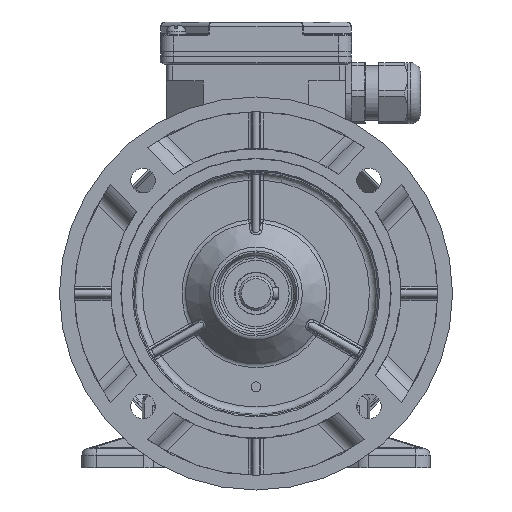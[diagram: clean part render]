
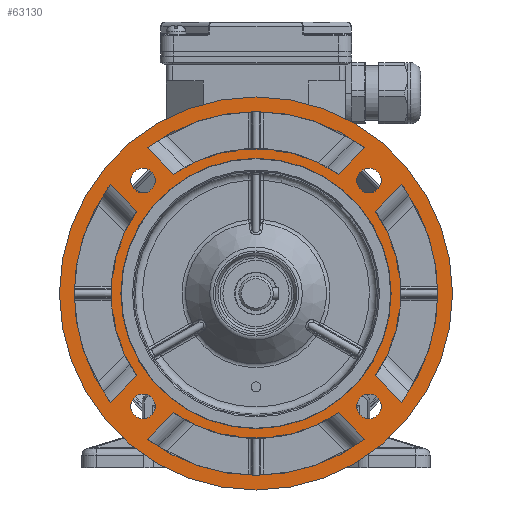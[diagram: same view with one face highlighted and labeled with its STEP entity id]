
A CAD part, front view. The second image highlights one B-rep face of the part: STEP entity #63130.
In plain terms, the highlighted planar face has unit normal (0, -1, 0).
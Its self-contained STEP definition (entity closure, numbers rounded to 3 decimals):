
#2220=LINE('',#95087,#5161);
#2221=LINE('',#95101,#5162);
#2222=LINE('',#95110,#5163);
#2223=LINE('',#95129,#5164);
#2224=LINE('',#95141,#5165);
#2225=LINE('',#95155,#5166);
#2226=LINE('',#95181,#5167);
#2227=LINE('',#95190,#5168);
#5161=VECTOR('',#75701,1000.);
#5162=VECTOR('',#75708,1000.);
#5163=VECTOR('',#75715,1000.);
#5164=VECTOR('',#75722,1000.);
#5165=VECTOR('',#75733,1000.);
#5166=VECTOR('',#75740,1000.);
#5167=VECTOR('',#75751,1000.);
#5168=VECTOR('',#75758,1000.);
#17358=ORIENTED_EDGE('',*,*,#26934,.F.);
#17359=ORIENTED_EDGE('',*,*,#26935,.F.);
#17360=ORIENTED_EDGE('',*,*,#26936,.F.);
#17361=ORIENTED_EDGE('',*,*,#26937,.F.);
#17362=ORIENTED_EDGE('',*,*,#26853,.F.);
#17363=ORIENTED_EDGE('',*,*,#26851,.F.);
#17364=ORIENTED_EDGE('',*,*,#26850,.T.);
#17365=ORIENTED_EDGE('',*,*,#26847,.T.);
#17366=ORIENTED_EDGE('',*,*,#26845,.F.);
#17367=ORIENTED_EDGE('',*,*,#26843,.T.);
#17368=ORIENTED_EDGE('',*,*,#26841,.T.);
#17369=ORIENTED_EDGE('',*,*,#26839,.F.);
#17370=ORIENTED_EDGE('',*,*,#26837,.F.);
#17371=ORIENTED_EDGE('',*,*,#26836,.F.);
#17372=ORIENTED_EDGE('',*,*,#26835,.T.);
#17373=ORIENTED_EDGE('',*,*,#26832,.T.);
#17374=ORIENTED_EDGE('',*,*,#26830,.F.);
#17375=ORIENTED_EDGE('',*,*,#26828,.F.);
#17376=ORIENTED_EDGE('',*,*,#26827,.T.);
#17377=ORIENTED_EDGE('',*,*,#26824,.T.);
#17378=ORIENTED_EDGE('',*,*,#26823,.F.);
#17379=ORIENTED_EDGE('',*,*,#26933,.T.);
#26823=EDGE_CURVE('',#32245,#32244,#2220,.T.);
#26824=EDGE_CURVE('',#32246,#32244,#35270,.T.);
#26827=EDGE_CURVE('',#32247,#32246,#2221,.T.);
#26828=EDGE_CURVE('',#32247,#32245,#35271,.T.);
#26830=EDGE_CURVE('',#32248,#32249,#2222,.T.);
#26832=EDGE_CURVE('',#32250,#32249,#35272,.T.);
#26835=EDGE_CURVE('',#32251,#32250,#2223,.T.);
#26836=EDGE_CURVE('',#32251,#32248,#35273,.T.);
#26837=EDGE_CURVE('',#32252,#32252,#35274,.T.);
#26839=EDGE_CURVE('',#32253,#32254,#2224,.T.);
#26841=EDGE_CURVE('',#32255,#32254,#35275,.T.);
#26843=EDGE_CURVE('',#32256,#32255,#2225,.T.);
#26845=EDGE_CURVE('',#32256,#32253,#35276,.T.);
#26847=EDGE_CURVE('',#32258,#32257,#35277,.T.);
#26850=EDGE_CURVE('',#32259,#32258,#2226,.T.);
#26851=EDGE_CURVE('',#32259,#32260,#35278,.T.);
#26853=EDGE_CURVE('',#32260,#32257,#2227,.T.);
#26933=EDGE_CURVE('',#32316,#32316,#35294,.T.);
#26934=EDGE_CURVE('',#32317,#32317,#35295,.T.);
#26935=EDGE_CURVE('',#32318,#32318,#35296,.T.);
#26936=EDGE_CURVE('',#32319,#32319,#35297,.T.);
#26937=EDGE_CURVE('',#32320,#32320,#35298,.T.);
#32244=VERTEX_POINT('',#95081);
#32245=VERTEX_POINT('',#95086);
#32246=VERTEX_POINT('',#95090);
#32247=VERTEX_POINT('',#95100);
#32248=VERTEX_POINT('',#95109);
#32249=VERTEX_POINT('',#95111);
#32250=VERTEX_POINT('',#95118);
#32251=VERTEX_POINT('',#95128);
#32252=VERTEX_POINT('',#95134);
#32253=VERTEX_POINT('',#95140);
#32254=VERTEX_POINT('',#95142);
#32255=VERTEX_POINT('',#95149);
#32256=VERTEX_POINT('',#95156);
#32257=VERTEX_POINT('',#95168);
#32258=VERTEX_POINT('',#95170);
#32259=VERTEX_POINT('',#95180);
#32260=VERTEX_POINT('',#95184);
#32316=VERTEX_POINT('',#95477);
#32317=VERTEX_POINT('',#95480);
#32318=VERTEX_POINT('',#95482);
#32319=VERTEX_POINT('',#95484);
#32320=VERTEX_POINT('',#95486);
#35270=CIRCLE('',#66844,59.);
#35271=CIRCLE('',#66847,74.);
#35272=CIRCLE('',#66850,59.);
#35273=CIRCLE('',#66853,74.);
#35274=CIRCLE('',#66855,55.);
#35275=CIRCLE('',#66858,59.);
#35276=CIRCLE('',#66861,74.);
#35277=CIRCLE('',#66863,59.);
#35278=CIRCLE('',#66866,74.);
#35294=CIRCLE('',#66928,80.);
#35295=CIRCLE('',#66930,5.);
#35296=CIRCLE('',#66931,5.);
#35297=CIRCLE('',#66932,5.);
#35298=CIRCLE('',#66933,5.);
#37789=EDGE_LOOP('',(#17358));
#37790=EDGE_LOOP('',(#17359));
#37791=EDGE_LOOP('',(#17360));
#37792=EDGE_LOOP('',(#17361));
#37793=EDGE_LOOP('',(#17362,#17363,#17364,#17365));
#37794=EDGE_LOOP('',(#17366,#17367,#17368,#17369));
#37795=EDGE_LOOP('',(#17370));
#37796=EDGE_LOOP('',(#17371,#17372,#17373,#17374));
#37797=EDGE_LOOP('',(#17375,#17376,#17377,#17378));
#37798=EDGE_LOOP('',(#17379));
#40859=FACE_BOUND('',#37789,.T.);
#40860=FACE_BOUND('',#37790,.T.);
#40861=FACE_BOUND('',#37791,.T.);
#40862=FACE_BOUND('',#37792,.T.);
#40863=FACE_BOUND('',#37793,.T.);
#40864=FACE_BOUND('',#37794,.T.);
#40865=FACE_BOUND('',#37795,.T.);
#40866=FACE_BOUND('',#37796,.T.);
#40867=FACE_BOUND('',#37797,.T.);
#40868=FACE_BOUND('',#37798,.T.);
#42744=PLANE('',#66929);
#63130=ADVANCED_FACE('',(#40859,#40860,#40861,#40862,#40863,#40864,#40865,
#40866,#40867,#40868),#42744,.F.);
#66844=AXIS2_PLACEMENT_3D('',#95089,#75704,#75705);
#66847=AXIS2_PLACEMENT_3D('',#95103,#75711,#75712);
#66850=AXIS2_PLACEMENT_3D('',#95117,#75718,#75719);
#66853=AXIS2_PLACEMENT_3D('',#95131,#75725,#75726);
#66855=AXIS2_PLACEMENT_3D('',#95133,#75729,#75730);
#66858=AXIS2_PLACEMENT_3D('',#95148,#75736,#75737);
#66861=AXIS2_PLACEMENT_3D('',#95162,#75743,#75744);
#66863=AXIS2_PLACEMENT_3D('',#95169,#75747,#75748);
#66866=AXIS2_PLACEMENT_3D('',#95183,#75754,#75755);
#66928=AXIS2_PLACEMENT_3D('',#95476,#75905,#75906);
#66929=AXIS2_PLACEMENT_3D('',#95478,#75907,#75908);
#66930=AXIS2_PLACEMENT_3D('',#95479,#75909,#75910);
#66931=AXIS2_PLACEMENT_3D('',#95481,#75911,#75912);
#66932=AXIS2_PLACEMENT_3D('',#95483,#75913,#75914);
#66933=AXIS2_PLACEMENT_3D('',#95485,#75915,#75916);
#75701=DIRECTION('',(-0.707,0.,-0.707));
#75704=DIRECTION('',(0.,-1.,0.));
#75705=DIRECTION('',(0.,0.,-1.));
#75708=DIRECTION('',(-0.707,0.,0.707));
#75711=DIRECTION('',(0.,-1.,0.));
#75712=DIRECTION('',(0.,0.,-1.));
#75715=DIRECTION('',(-0.707,0.,0.707));
#75718=DIRECTION('',(0.,-1.,0.));
#75719=DIRECTION('',(0.,0.,-1.));
#75722=DIRECTION('',(0.707,0.,0.707));
#75725=DIRECTION('',(0.,-1.,0.));
#75726=DIRECTION('',(0.,0.,-1.));
#75729=DIRECTION('',(0.,-1.,0.));
#75730=DIRECTION('',(0.,0.,-1.));
#75733=DIRECTION('',(0.707,0.,0.707));
#75736=DIRECTION('',(0.,-1.,0.));
#75737=DIRECTION('',(0.,0.,-1.));
#75740=DIRECTION('',(0.707,0.,-0.707));
#75743=DIRECTION('',(0.,-1.,0.));
#75744=DIRECTION('',(0.,0.,-1.));
#75747=DIRECTION('',(0.,-1.,0.));
#75748=DIRECTION('',(0.,0.,-1.));
#75751=DIRECTION('',(-0.707,0.,-0.707));
#75754=DIRECTION('',(0.,-1.,0.));
#75755=DIRECTION('',(0.,0.,-1.));
#75758=DIRECTION('',(0.707,0.,-0.707));
#75905=DIRECTION('',(0.,-1.,0.));
#75906=DIRECTION('',(0.,0.,-1.));
#75907=DIRECTION('',(0.,1.,0.));
#75908=DIRECTION('',(0.,0.,1.));
#75909=DIRECTION('',(0.,-1.,0.));
#75910=DIRECTION('',(1.,0.,0.));
#75911=DIRECTION('',(0.,-1.,0.));
#75912=DIRECTION('',(1.,0.,0.));
#75913=DIRECTION('',(0.,-1.,0.));
#75914=DIRECTION('',(1.,0.,0.));
#75915=DIRECTION('',(0.,-1.,0.));
#75916=DIRECTION('',(1.,0.,0.));
#95081=CARTESIAN_POINT('',(48.549,-90.,33.526));
#95086=CARTESIAN_POINT('',(59.295,-90.,44.273));
#95087=CARTESIAN_POINT('',(59.837,-90.,44.815));
#95089=CARTESIAN_POINT('',(0.,-90.,0.));
#95090=CARTESIAN_POINT('',(48.549,-90.,-33.526));
#95100=CARTESIAN_POINT('',(59.295,-90.,-44.273));
#95101=CARTESIAN_POINT('',(59.837,-90.,-44.815));
#95103=CARTESIAN_POINT('',(0.,-90.,0.));
#95109=CARTESIAN_POINT('',(44.273,-90.,-59.295));
#95110=CARTESIAN_POINT('',(44.815,-90.,-59.837));
#95111=CARTESIAN_POINT('',(33.526,-90.,-48.549));
#95117=CARTESIAN_POINT('',(0.,-90.,0.));
#95118=CARTESIAN_POINT('',(-33.526,-90.,-48.549));
#95128=CARTESIAN_POINT('',(-44.273,-90.,-59.295));
#95129=CARTESIAN_POINT('',(-44.815,-90.,-59.837));
#95131=CARTESIAN_POINT('',(0.,-90.,0.));
#95133=CARTESIAN_POINT('',(0.,-90.,0.));
#95134=CARTESIAN_POINT('',(0.,-90.,-55.));
#95140=CARTESIAN_POINT('',(-59.295,-90.,-44.273));
#95141=CARTESIAN_POINT('',(-59.837,-90.,-44.815));
#95142=CARTESIAN_POINT('',(-48.549,-90.,-33.526));
#95148=CARTESIAN_POINT('',(0.,-90.,0.));
#95149=CARTESIAN_POINT('',(-48.549,-90.,33.526));
#95155=CARTESIAN_POINT('',(-59.837,-90.,44.815));
#95156=CARTESIAN_POINT('',(-59.295,-90.,44.273));
#95162=CARTESIAN_POINT('',(0.,-90.,0.));
#95168=CARTESIAN_POINT('',(-33.526,-90.,48.549));
#95169=CARTESIAN_POINT('',(0.,-90.,0.));
#95170=CARTESIAN_POINT('',(33.526,-90.,48.549));
#95180=CARTESIAN_POINT('',(44.273,-90.,59.295));
#95181=CARTESIAN_POINT('',(44.815,-90.,59.837));
#95183=CARTESIAN_POINT('',(0.,-90.,0.));
#95184=CARTESIAN_POINT('',(-44.273,-90.,59.295));
#95190=CARTESIAN_POINT('',(-44.815,-90.,59.837));
#95476=CARTESIAN_POINT('',(0.,-90.,0.));
#95477=CARTESIAN_POINT('',(0.,-90.,-80.));
#95478=CARTESIAN_POINT('',(0.,-90.,55.));
#95479=CARTESIAN_POINT('',(45.962,-90.,45.962));
#95480=CARTESIAN_POINT('',(50.962,-90.,45.962));
#95481=CARTESIAN_POINT('',(45.962,-90.,-45.962));
#95482=CARTESIAN_POINT('',(50.962,-90.,-45.962));
#95483=CARTESIAN_POINT('',(-45.962,-90.,-45.962));
#95484=CARTESIAN_POINT('',(-40.962,-90.,-45.962));
#95485=CARTESIAN_POINT('',(-45.962,-90.,45.962));
#95486=CARTESIAN_POINT('',(-40.962,-90.,45.962));
